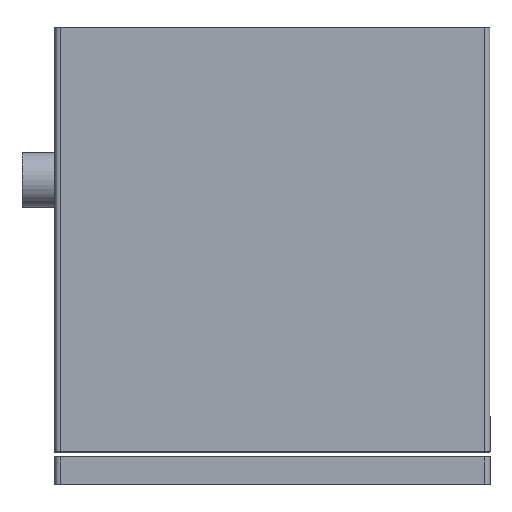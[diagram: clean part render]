
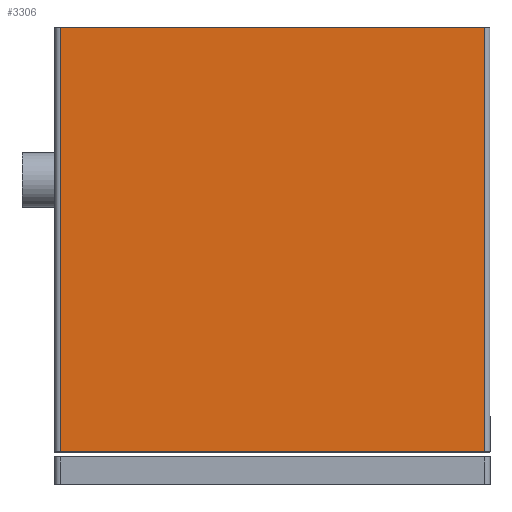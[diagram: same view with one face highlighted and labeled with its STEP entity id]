
A CAD part, top view. The second image highlights one B-rep face of the part: STEP entity #3306.
In plain terms, the highlighted planar face has unit normal (0, 0, 1).
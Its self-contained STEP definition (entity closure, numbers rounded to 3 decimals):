
#490 = DIRECTION ( 'NONE',  ( 0., -1., 0. ) ) ;
#822 = VERTEX_POINT ( 'NONE', #10728 ) ;
#1264 = EDGE_CURVE ( 'NONE', #822, #4640, #7446, .T. ) ;
#1424 = PLANE ( 'NONE',  #8763 ) ;
#1476 = CARTESIAN_POINT ( 'NONE',  ( -168.416, 19.361, 27.381 ) ) ;
#2647 = VECTOR ( 'NONE', #5874, 1000. ) ;
#2963 = ORIENTED_EDGE ( 'NONE', *, *, #3448, .F. ) ;
#3060 = CARTESIAN_POINT ( 'NONE',  ( -168.416, 19.361, 27.381 ) ) ;
#3106 = VECTOR ( 'NONE', #490, 1000. ) ;
#3217 = FACE_OUTER_BOUND ( 'NONE', #4757, .T. ) ;
#3306 = ADVANCED_FACE ( 'NONE', ( #3217 ), #1424, .F. ) ;
#3448 = EDGE_CURVE ( 'NONE', #6277, #4640, #10777, .T. ) ;
#3515 = VECTOR ( 'NONE', #5331, 1000. ) ;
#3607 = VERTEX_POINT ( 'NONE', #5495 ) ;
#3704 = CARTESIAN_POINT ( 'NONE',  ( -167.916, 19.361, 27.381 ) ) ;
#4131 = CARTESIAN_POINT ( 'NONE',  ( -128.416, 58.361, 27.381 ) ) ;
#4300 = CARTESIAN_POINT ( 'NONE',  ( -128.916, 58.361, 27.381 ) ) ;
#4557 = EDGE_CURVE ( 'NONE', #822, #3607, #10511, .T. ) ;
#4640 = VERTEX_POINT ( 'NONE', #4300 ) ;
#4757 = EDGE_LOOP ( 'NONE', ( #9301, #7750, #2963, #9685 ) ) ;
#4849 = DIRECTION ( 'NONE',  ( 0., 0., -1. ) ) ;
#5331 = DIRECTION ( 'NONE',  ( 1., 0., 0. ) ) ;
#5495 = CARTESIAN_POINT ( 'NONE',  ( -167.916, 19.361, 27.381 ) ) ;
#5682 = DIRECTION ( 'NONE',  ( 1., 0., 0. ) ) ;
#5874 = DIRECTION ( 'NONE',  ( 0., 1., 0. ) ) ;
#6088 = VECTOR ( 'NONE', #9709, 1000. ) ;
#6277 = VERTEX_POINT ( 'NONE', #7384 ) ;
#7242 = LINE ( 'NONE', #3704, #3106 ) ;
#7384 = CARTESIAN_POINT ( 'NONE',  ( -167.916, 58.361, 27.381 ) ) ;
#7446 = LINE ( 'NONE', #8173, #2647 ) ;
#7750 = ORIENTED_EDGE ( 'NONE', *, *, #1264, .T. ) ;
#8173 = CARTESIAN_POINT ( 'NONE',  ( -128.916, 19.361, 27.381 ) ) ;
#8763 = AXIS2_PLACEMENT_3D ( 'NONE', #1476, #4849, #5682 ) ;
#9301 = ORIENTED_EDGE ( 'NONE', *, *, #4557, .F. ) ;
#9612 = EDGE_CURVE ( 'NONE', #6277, #3607, #7242, .T. ) ;
#9685 = ORIENTED_EDGE ( 'NONE', *, *, #9612, .T. ) ;
#9709 = DIRECTION ( 'NONE',  ( -1., 0., 0. ) ) ;
#10511 = LINE ( 'NONE', #3060, #6088 ) ;
#10728 = CARTESIAN_POINT ( 'NONE',  ( -128.916, 19.361, 27.381 ) ) ;
#10777 = LINE ( 'NONE', #4131, #3515 ) ;
